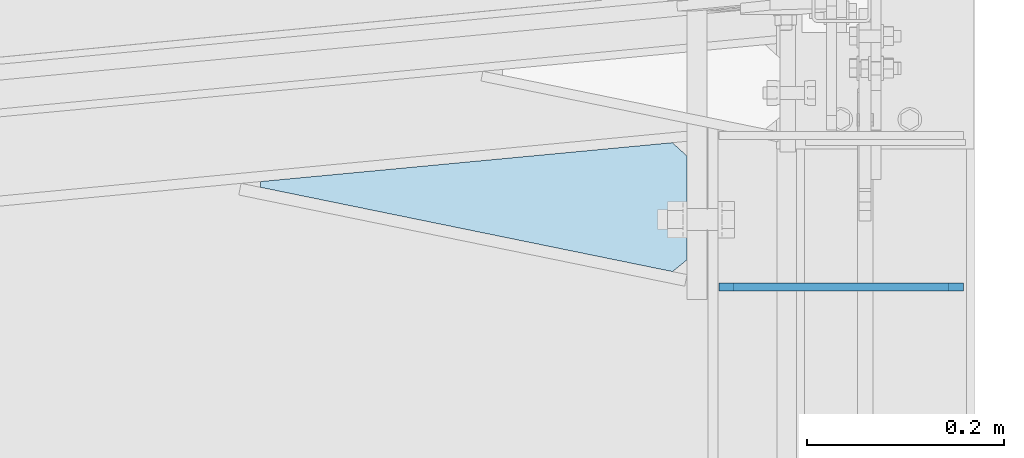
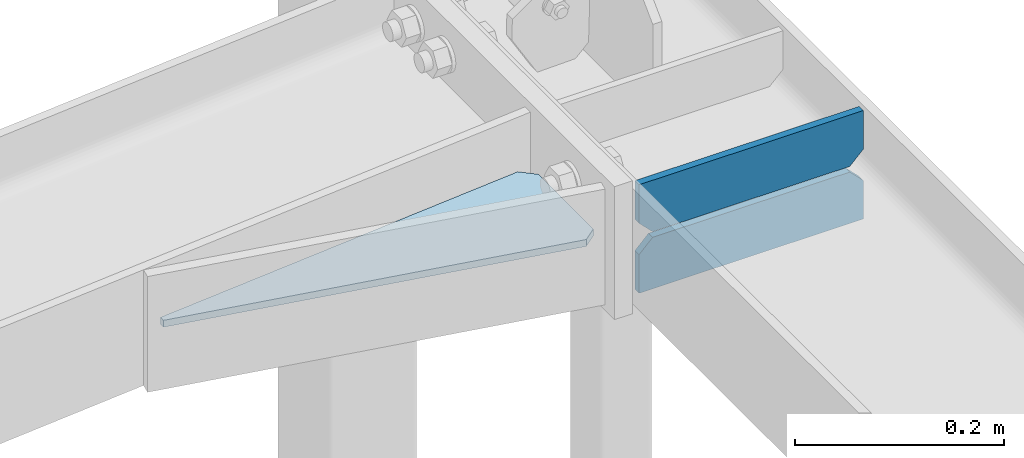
# One storey, part 195 of 271: 3 plates, 2 elements without a shape of their own.
"""IFC2X3 building model written with IfcOpenShell, lengths in millimetres."""

from ifc_helpers import new_model, si_unit, frame, origin_with_axes, place, context, subcontext, project, spatial, polyline, outline, extrude, material, type_object, element, aggregate, save


model = new_model("IFC2X3")

# Units and contexts
model_context = context("Model", 3, precision=1e-05, world=origin_with_axes())
body_context = subcontext(model_context, "Body", "Model", "MODEL_VIEW")
ifc_project = project(units=[si_unit("LENGTHUNIT", "METRE", prefix="MILLI"), si_unit("AREAUNIT", "SQUARE_METRE"), si_unit("VOLUMEUNIT", "CUBIC_METRE"), si_unit("MASSUNIT", "GRAM", prefix="KILO"), si_unit("TIMEUNIT", "SECOND"), si_unit("PLANEANGLEUNIT", "RADIAN"), si_unit("SOLIDANGLEUNIT", "STERADIAN"), si_unit("THERMODYNAMICTEMPERATUREUNIT", "DEGREE_CELSIUS"), si_unit("LUMINOUSINTENSITYUNIT", "LUMEN")], contexts=[model_context])

# Site, building, storey
site_placement = place(None, origin_with_axes())
site = spatial("IfcSite", under=ifc_project, at=site_placement, Name="Undefined", CompositionType="ELEMENT")
building_placement = place(site_placement, origin_with_axes())
building = spatial("IfcBuilding", under=site, at=building_placement, Name="Undefined", CompositionType="ELEMENT")
storey_placement = place(building_placement, origin_with_axes())
storey = spatial("IfcBuildingStorey", under=building, at=storey_placement, Name="Undefined", CompositionType="ELEMENT", Elevation=0.0)

# Assembly, plates
assembly_1_placement = place(storey_placement, origin_with_axes())
assembly_1 = element("IfcElementAssembly", 1, at=assembly_1_placement, inside=storey, AssemblyPlace="NOTDEFINED", PredefinedType="RIGID_FRAME")
ifc_material = material(Name="STEEL/S355JR")
plate_type_1 = type_object("IfcPlateType", Name="BL8*60", PredefinedType="NOTDEFINED")
plate_1_placement = place(assembly_1_placement, frame((12449.5756869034, 3994.32774429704, 1301.04999995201), z_axis=(0.0, 1.0, 0.0), x_axis=(0.0, 0.0, 1.0)))
plate_1 = element("IfcPlate", 2, at=plate_1_placement, type_object=plate_type_1, material=ifc_material, Name="BLACHA", ObjectType="BL8*60", context=body_context, shape_type="SweptSolid", body=[
    extrude(outline(polyline([(0.0, 0.0), (45.0, 0.0), (60.0, 15.0), (60.0, 232.600006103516), (45.0, 247.600006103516), (0.0, 247.600006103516), (0.0, 0.0)])), frame((0.0, 0.0, -4.0), z_axis=(0.0, 0.0, 1.0), x_axis=(1.0, 0.0, 0.0)), (0.0, 0.0, 1.0), 8.0),
])
plate_2_placement = place(assembly_1_placement, frame((12449.5756869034, 3994.32774429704, 1427.64999985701), z_axis=(0.0, -1.0, 0.0), x_axis=(0.0, 0.0, -1.0)))
plate_2 = element("IfcPlate", 3, at=plate_2_placement, type_object=plate_type_1, material=ifc_material, Name="BLACHA", ObjectType="BL8*60", context=body_context, shape_type="SweptSolid", body=[
    extrude(outline(polyline([(0.0, 0.0), (45.0, 0.0), (60.0, 15.0), (60.0, 232.600006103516), (45.0, 247.600006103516), (0.0, 247.600006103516), (0.0, 0.0)])), frame((0.0, 0.0, -4.0), z_axis=(0.0, 0.0, 1.0), x_axis=(1.0, 0.0, 0.0)), (0.0, 0.0, 1.0), 8.0),
])
aggregate(assembly_1, [plate_1, plate_2])

# Assembly, plate
assembly_2_placement = place(storey_placement, origin_with_axes())
assembly_2 = element("IfcElementAssembly", 4, at=assembly_2_placement, inside=storey, AssemblyPlace="NOTDEFINED", PredefinedType="RIGID_FRAME")
plate_type_2 = type_object("IfcPlateType", Name="BL8*128", PredefinedType="NOTDEFINED")
plate_3_placement = place(assembly_2_placement, frame((12417.3756870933, 4006.87215395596, 1364.34999990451), z_axis=(0.0, 0.0, 1.0), x_axis=(0.0, 1.0, 0.0)))
plate_3 = element("IfcPlate", 5, at=plate_3_placement, type_object=plate_type_2, material=ifc_material, Name="BLACHA", ObjectType="BL8*128", context=body_context, shape_type="SweptSolid", body=[
    extrude(outline(polyline([(3.00624160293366, 14.6956630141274), (15.0, -1.59872115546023e-14), (120.0, 0.0), (133.591161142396, 14.9336925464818), (94.2702746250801, 431.735107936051), (88.3835006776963, 432.052480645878), (3.00624160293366, 14.6956630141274)])), frame((0.0, 0.0, -4.0), z_axis=(0.0, 0.0, 1.0), x_axis=(1.0, 0.0, 0.0)), (0.0, 0.0, 1.0), 8.0),
])
aggregate(assembly_2, [plate_3])

save(model, "model.ifc")
